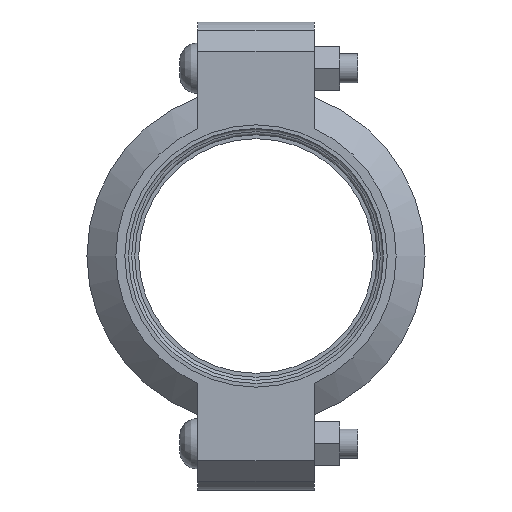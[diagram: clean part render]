
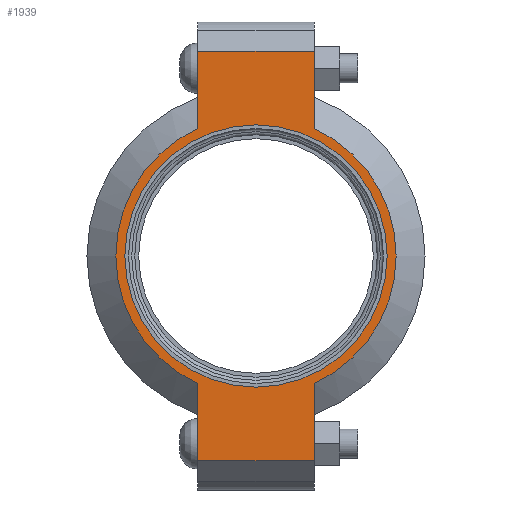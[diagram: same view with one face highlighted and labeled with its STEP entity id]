
A CAD part, left-side view. The second image highlights one B-rep face of the part: STEP entity #1939.
In plain terms, the highlighted planar face has unit normal (-1, 0, 0) as drawn and (0, 0, 1) by its records, which use the part's own axes.
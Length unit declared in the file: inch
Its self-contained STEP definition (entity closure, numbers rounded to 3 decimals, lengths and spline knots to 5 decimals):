
#128=LINE('',#3437,#225);
#136=LINE('',#3473,#233);
#143=LINE('',#3494,#240);
#152=LINE('',#3526,#249);
#153=LINE('',#3530,#250);
#154=LINE('',#3532,#251);
#225=VECTOR('',#2805,0.3937);
#233=VECTOR('',#2821,0.3937);
#240=VECTOR('',#2840,0.3937);
#249=VECTOR('',#2865,0.3937);
#250=VECTOR('',#2870,0.3937);
#251=VECTOR('',#2871,0.3937);
#307=FACE_BOUND('',#557,.T.);
#351=PLANE('',#2278);
#439=FACE_OUTER_BOUND('',#556,.T.);
#556=EDGE_LOOP('',(#1660,#1661,#1662,#1663,#1664,#1665,#1666,#1667));
#557=EDGE_LOOP('',(#1668));
#729=CIRCLE('',#2279,2.405);
#730=CIRCLE('',#2280,2.405);
#731=CIRCLE('',#2281,2.25);
#893=VERTEX_POINT('',#3434);
#894=VERTEX_POINT('',#3436);
#905=VERTEX_POINT('',#3468);
#906=VERTEX_POINT('',#3472);
#913=VERTEX_POINT('',#3491);
#914=VERTEX_POINT('',#3493);
#924=VERTEX_POINT('',#3529);
#925=VERTEX_POINT('',#3531);
#926=VERTEX_POINT('',#3534);
#1138=EDGE_CURVE('',#894,#893,#128,.T.);
#1152=EDGE_CURVE('',#906,#905,#136,.T.);
#1162=EDGE_CURVE('',#914,#913,#143,.T.);
#1177=EDGE_CURVE('',#906,#893,#152,.T.);
#1178=EDGE_CURVE('',#905,#914,#729,.T.);
#1179=EDGE_CURVE('',#924,#913,#153,.T.);
#1180=EDGE_CURVE('',#924,#925,#154,.T.);
#1181=EDGE_CURVE('',#925,#894,#730,.T.);
#1182=EDGE_CURVE('',#926,#926,#731,.T.);
#1660=ORIENTED_EDGE('',*,*,#1177,.F.);
#1661=ORIENTED_EDGE('',*,*,#1152,.T.);
#1662=ORIENTED_EDGE('',*,*,#1178,.T.);
#1663=ORIENTED_EDGE('',*,*,#1162,.T.);
#1664=ORIENTED_EDGE('',*,*,#1179,.F.);
#1665=ORIENTED_EDGE('',*,*,#1180,.T.);
#1666=ORIENTED_EDGE('',*,*,#1181,.T.);
#1667=ORIENTED_EDGE('',*,*,#1138,.T.);
#1668=ORIENTED_EDGE('',*,*,#1182,.T.);
#1939=ADVANCED_FACE('',(#439,#307),#351,.T.);
#2278=AXIS2_PLACEMENT_3D('',#3527,#2866,#2867);
#2279=AXIS2_PLACEMENT_3D('',#3528,#2868,#2869);
#2280=AXIS2_PLACEMENT_3D('',#3533,#2872,#2873);
#2281=AXIS2_PLACEMENT_3D('',#3535,#2874,#2875);
#2805=DIRECTION('',(1.,0.,0.));
#2821=DIRECTION('',(-1.,0.,0.));
#2840=DIRECTION('',(-1.,0.,0.));
#2865=DIRECTION('',(0.,-1.,0.));
#2866=DIRECTION('center_axis',(0.,0.,1.));
#2867=DIRECTION('ref_axis',(-1.,0.,0.));
#2868=DIRECTION('center_axis',(0.,0.,1.));
#2869=DIRECTION('ref_axis',(1.,0.,0.));
#2870=DIRECTION('',(0.,1.,0.));
#2871=DIRECTION('',(1.,0.,0.));
#2872=DIRECTION('center_axis',(0.,0.,1.));
#2873=DIRECTION('ref_axis',(1.,0.,0.));
#2874=DIRECTION('center_axis',(0.,0.,-1.));
#2875=DIRECTION('ref_axis',(1.,0.,0.));
#3434=CARTESIAN_POINT('',(3.515,-1.,1.065));
#3436=CARTESIAN_POINT('',(2.18724,-1.,1.065));
#3437=CARTESIAN_POINT('',(4.015,-1.,1.065));
#3468=CARTESIAN_POINT('',(2.18724,1.,1.065));
#3472=CARTESIAN_POINT('',(3.515,1.,1.065));
#3473=CARTESIAN_POINT('',(-4.015,1.,1.065));
#3491=CARTESIAN_POINT('',(-3.515,1.,1.065));
#3493=CARTESIAN_POINT('',(-2.18724,1.,1.065));
#3494=CARTESIAN_POINT('',(-4.015,1.,1.065));
#3526=CARTESIAN_POINT('',(3.515,-0.5,1.065));
#3527=CARTESIAN_POINT('Origin',(0.,0.,
1.065));
#3528=CARTESIAN_POINT('Origin',(0.,0.,1.065));
#3529=CARTESIAN_POINT('',(-3.515,-1.,1.065));
#3530=CARTESIAN_POINT('',(-3.515,0.5,1.065));
#3531=CARTESIAN_POINT('',(-2.18724,-1.,1.065));
#3532=CARTESIAN_POINT('',(4.015,-1.,1.065));
#3533=CARTESIAN_POINT('Origin',(0.,0.,1.065));
#3534=CARTESIAN_POINT('',(-2.25,0.,1.065));
#3535=CARTESIAN_POINT('Origin',(0.,0.,1.065));
